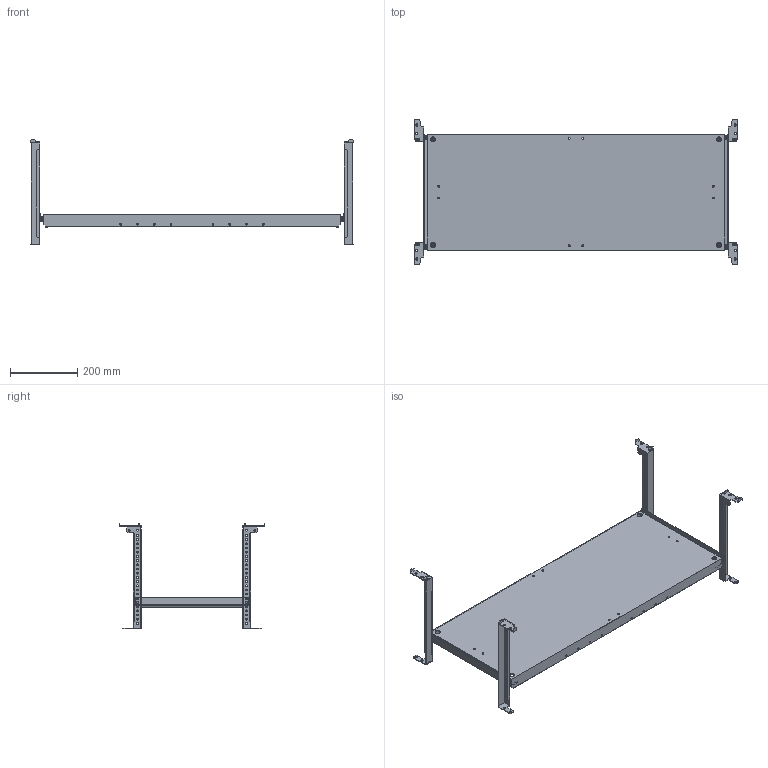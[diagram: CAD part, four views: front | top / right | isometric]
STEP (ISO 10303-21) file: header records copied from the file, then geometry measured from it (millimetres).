
FILE_DESCRIPTION (( 'STEP AP214' ), '1' );
FILE_NAME ('FO-00-MPU-035-100 Ïàíåëü ìîíòàæíàÿ óíèâåðñàëüíàÿ 350õ1000 ìì.STEP', '2025-07-16T08:21:02', ( '' ), ( '' ), 'SwSTEP 2.0', 'SolidWorks 2023', '' );
FILE_SCHEMA (( 'AUTOMOTIVE_DESIGN' ));
Length unit declared in the file: millimetre
Products named in the file (5): Траверса горизонтальнаяD; Панель монтажная универсальная 350х1000 мм; Траверса горизонтальная; Винты DIN 912 4xM6x20 350x1000; FO-00-MPU-035-100 Панель монтажная универсальная 350х1000 мм
Assembly tree (6 placements, depth 2):
  FO-00-MPU-035-100 Панель монтажная универсальная 350х1000 мм
    Панель монтажная универсальная 350х1000 мм
    Винты DIN 912 4xM6x20 350x1000
    Траверса горизонтальнаяD  x2
    Траверса горизонтальная  x2
Bounding box: 966 x 435 x 314.5 mm (x, y, z)
Volume: 1055485.1 mm3; surface area: 1075723.9 mm2
Topology: 9 solids, 13 shells, 987 faces, 2741 edges, 1828 vertices
Faces by surface type: cylinder 453, plane 442, cone 60, bspline 32
Entity records: 29080 total; most frequent: CARTESIAN_POINT 8915, ORIENTED_EDGE 4150, DIRECTION 4147, EDGE_CURVE 2075, AXIS2_PLACEMENT_3D 1506, VERTEX_POINT 1384, LINE 1135, VECTOR 1135
